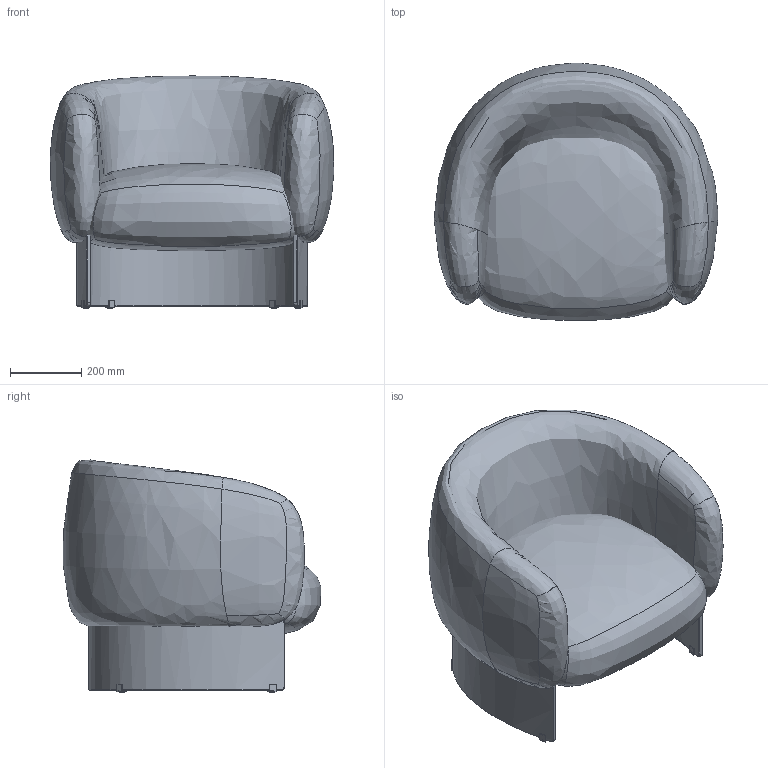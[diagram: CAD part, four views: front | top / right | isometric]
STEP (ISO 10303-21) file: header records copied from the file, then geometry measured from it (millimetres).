
FILE_DESCRIPTION(/* description */ (''),/* implementation_level */ '2;1');
FILE_NAME(/* name */ '3D_ONAIR',/* time_stamp */ '2025-04-04T17:40:32+02:00',/* author */ (''),/* organization */ (''),/* preprocessor_version */ 'ST-DEVELOPER v16.5',/* originating_system */ '',/* authorisation */ '');
FILE_SCHEMA (('AUTOMOTIVE_DESIGN'));
Length unit declared in the file: millimetre
Products named in the file (1): Document
Bounding box: 793.86 x 720.27 x 649.83 mm (x, y, z)
Volume: 155114086.2 mm3; surface area: 3130551.9 mm2
Topology: 11 solids, 11 shells, 264 faces, 522 edges, 280 vertices
Faces by surface type: bspline 216, plane 48
Entity records: 14913 total; most frequent: CARTESIAN_POINT 11796, ORIENTED_EDGE 1044, EDGE_CURVE 522, VERTEX_POINT 280, ADVANCED_FACE 264, FACE_OUTER_BOUND 264, EDGE_LOOP 264, B_SPLINE_CURVE_WITH_KNOTS 254
